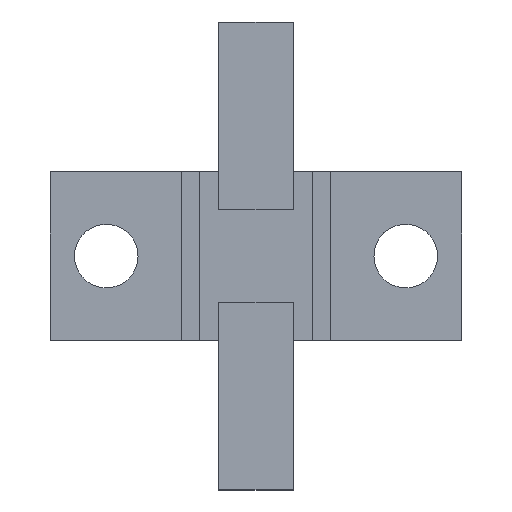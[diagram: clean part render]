
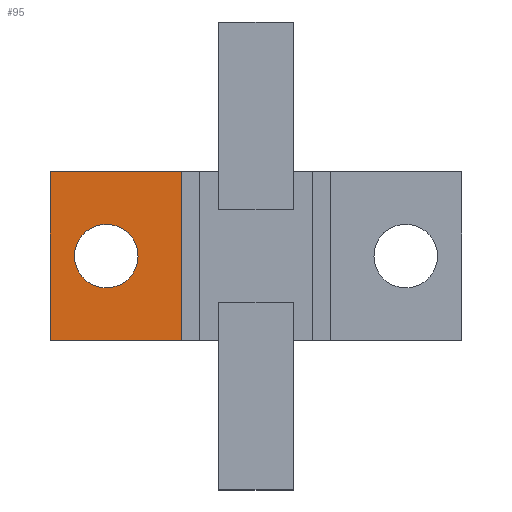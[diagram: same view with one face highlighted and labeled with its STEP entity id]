
A CAD part, top view. The second image highlights one B-rep face of the part: STEP entity #95.
In plain terms, the highlighted planar face has unit normal (0, 0, 1).
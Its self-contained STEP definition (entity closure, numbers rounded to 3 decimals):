
#95=ADVANCED_FACE('',(#395,#397),#399,.T.);
#395=FACE_BOUND('',#396,.T.);
#396=EDGE_LOOP('',(#652,#653,#654,#655));
#397=FACE_BOUND('',#398,.T.);
#398=EDGE_LOOP('',(#656));
#399=PLANE('',#400);
#400=AXIS2_PLACEMENT_3D('',#401,#402,#403);
#401=CARTESIAN_POINT('',(0.,0.,2.));
#402=DIRECTION('',(0.,0.,1.));
#403=DIRECTION('',(-1.,0.,0.));
#652=ORIENTED_EDGE('',*,*,#818,.T.);
#653=ORIENTED_EDGE('',*,*,#813,.T.);
#654=ORIENTED_EDGE('',*,*,#819,.T.);
#655=ORIENTED_EDGE('',*,*,#795,.T.);
#656=ORIENTED_EDGE('',*,*,#820,.T.);
#795=EDGE_CURVE('',#883,#881,#884,.T.);
#813=EDGE_CURVE('',#919,#917,#920,.T.);
#818=EDGE_CURVE('',#881,#919,#926,.F.);
#819=EDGE_CURVE('',#917,#883,#927,.T.);
#820=EDGE_CURVE('',#928,#928,#929,.F.);
#881=VERTEX_POINT('',#1025);
#883=VERTEX_POINT('',#1029);
#884=LINE('',#1030,#1031);
#917=VERTEX_POINT('',#1097);
#919=VERTEX_POINT('',#1101);
#920=LINE('',#1102,#1103);
#926=LINE('',#1118,#1119);
#927=LINE('',#1121,#1122);
#928=VERTEX_POINT('',#1124);
#929=CIRCLE('',#1125,1.7);
#1025=CARTESIAN_POINT('',(-4.,-4.5,2.));
#1029=CARTESIAN_POINT('',(-11.,-4.5,2.));
#1030=CARTESIAN_POINT('',(-11.,-4.5,2.));
#1031=VECTOR('',#1032,1.);
#1032=DIRECTION('',(1.,0.,0.));
#1097=CARTESIAN_POINT('',(-11.,4.5,2.));
#1101=CARTESIAN_POINT('',(-4.,4.5,2.));
#1102=CARTESIAN_POINT('',(-4.,4.5,2.));
#1103=VECTOR('',#1104,1.);
#1104=DIRECTION('',(-1.,0.,0.));
#1118=CARTESIAN_POINT('',(-4.,4.5,2.));
#1119=VECTOR('',#1120,1.);
#1120=DIRECTION('',(0.,-1.,0.));
#1121=CARTESIAN_POINT('',(-11.,4.5,2.));
#1122=VECTOR('',#1123,1.);
#1123=DIRECTION('',(0.,-1.,0.));
#1124=CARTESIAN_POINT('',(-9.7,0.,2.));
#1125=AXIS2_PLACEMENT_3D('',#1126,#1127,#1128);
#1126=CARTESIAN_POINT('',(-8.,0.,2.));
#1127=DIRECTION('',(0.,0.,1.));
#1128=DIRECTION('',(-1.,0.,0.));
